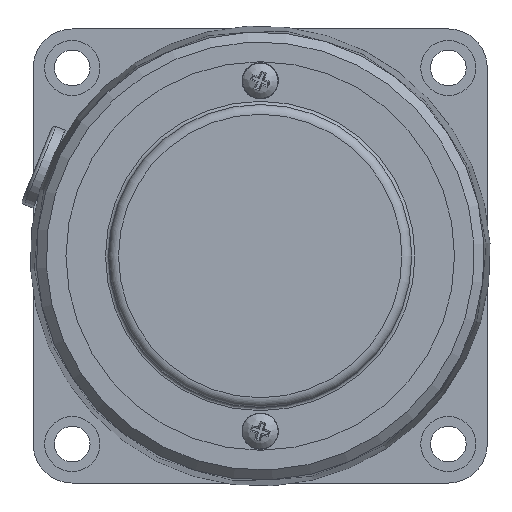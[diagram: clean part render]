
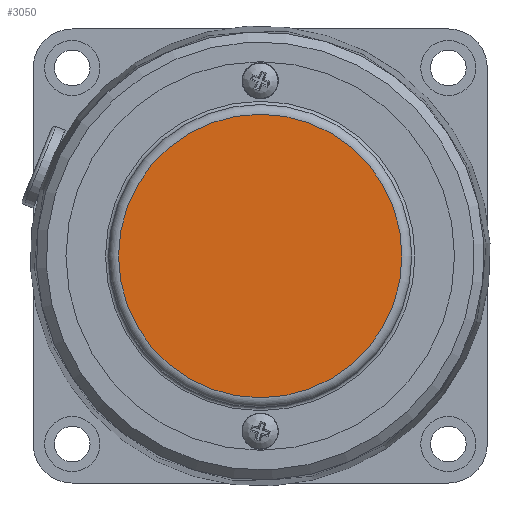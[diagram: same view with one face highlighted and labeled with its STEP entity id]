
A CAD part, left-side view. The second image highlights one B-rep face of the part: STEP entity #3050.
In plain terms, the highlighted planar face has unit normal (-1, 0, 0).
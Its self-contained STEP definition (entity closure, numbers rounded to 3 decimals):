
#3027=CARTESIAN_POINT('',(-50.5,0.,21.85));
#3028=VERTEX_POINT('',#3027);
#3029=CARTESIAN_POINT('',(-50.5,0.,0.));
#3030=DIRECTION('',(1.0,0.0,0.0));
#3031=DIRECTION('',(0.0,0.0,-1.0));
#3032=AXIS2_PLACEMENT_3D('',#3029,#3030,#3031);
#3033=CIRCLE('',#3032,21.85);
#3034=EDGE_CURVE('',#3028,#3028,#3033,.T.);
#3042=CARTESIAN_POINT('',(-50.5,0.,0.));
#3043=DIRECTION('',(1.0,0.0,0.0));
#3044=DIRECTION('',(0.0,0.0,-1.0));
#3045=AXIS2_PLACEMENT_3D('',#3042,#3043,#3044);
#3046=PLANE('',#3045);
#3047=ORIENTED_EDGE('',*,*,#3034,.F.);
#3048=EDGE_LOOP('',(#3047));
#3049=FACE_OUTER_BOUND('',#3048,.T.);
#3050=ADVANCED_FACE('',(#3049),#3046,.F.);
